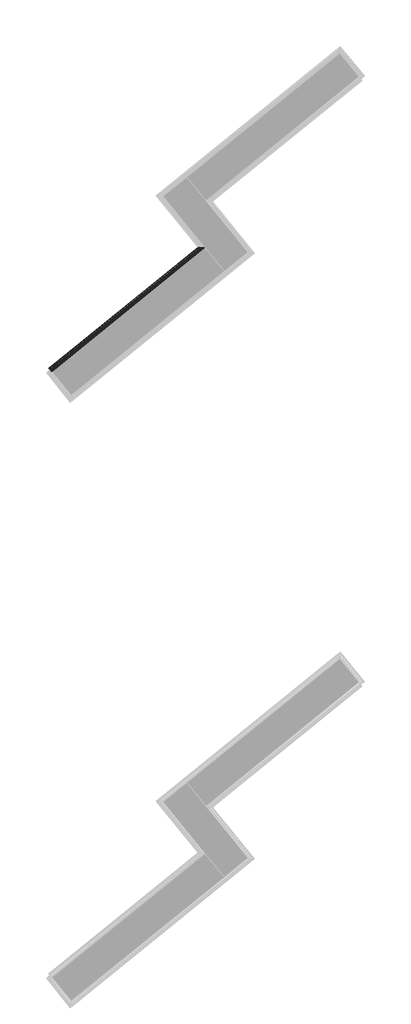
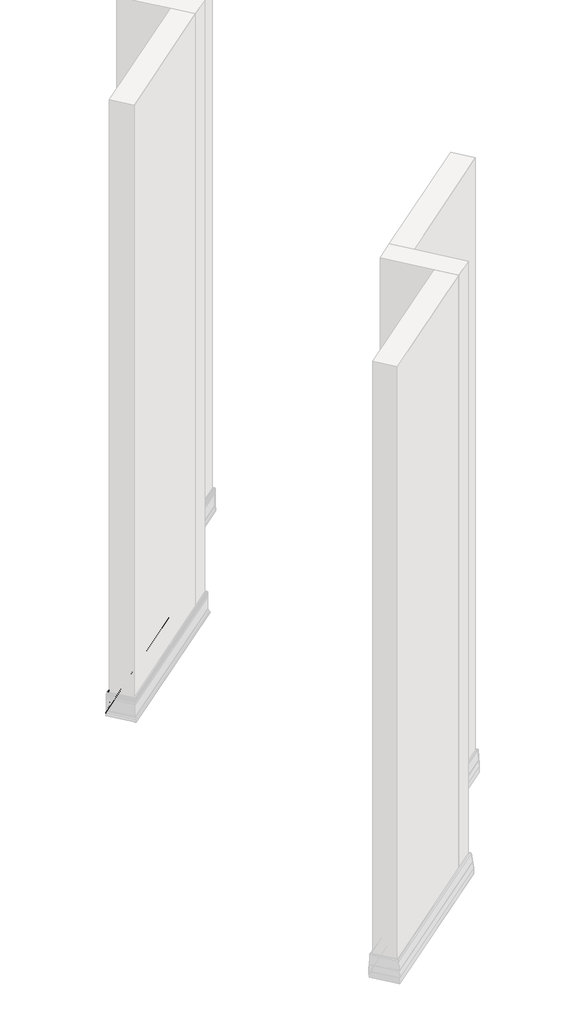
# One storey, part 18 of 21: 1 proxy.
"""IFC4 building model written with IfcOpenShell, lengths in millimetres."""

import ifcopenshell
import ifcopenshell.guid

model = None  # the IFC model being written
_history = None  # IfcOwnerHistory: only IFC2X3 demands one
_inside = {}  # id of a spatial element -> (the spatial element, [elements in it])
_under = {}  # id of a project, library or spatial element -> (it, [spatial elements below it])
_declared = {}  # id of a project -> (the project, [libraries it declares])
_typed = {}  # id of a type object -> (the type object, [elements of that type])
_made_of = {}  # id of a material, layer set ... -> (it, [elements and type objects made of it])


def new_model(schema):
    """Start an empty IFC model of exactly this schema.

    Asked for "IFC4X3", IfcOpenShell would pick the latest addendum, in which some entities
    have other attributes; the version numbers below select the first issue.
    IFC2X3 requires an IfcOwnerHistory on every rooted entity: one is made here for all.
    """
    global model, _history
    if schema == "IFC4X3":
        model = ifcopenshell.file(schema_version=(4, 3, 0, 0))
    else:
        model = ifcopenshell.file(schema=schema)
    _inside.clear()
    _under.clear()
    _declared.clear()
    _typed.clear()
    _made_of.clear()
    _history = None
    if model.schema == "IFC2X3":
        org = make("IfcOrganization", Name="unknown")
        user = make(
            "IfcPersonAndOrganization",
            ThePerson=make("IfcPerson", FamilyName="unknown"),
            TheOrganization=org,
        )
        app = make(
            "IfcApplication",
            ApplicationDeveloper=org,
            Version="unknown",
            ApplicationFullName="unknown",
            ApplicationIdentifier="unknown",
        )
        _history = make(
            "IfcOwnerHistory",
            OwningUser=user,
            OwningApplication=app,
            ChangeAction="ADDED",
            CreationDate=0,
        )
    return model


def make(cls, **values):
    """One entity of the class cls with the attributes given. An attribute that is None is left unset."""
    return model.create_entity(
        cls, **{name: value for name, value in values.items() if value is not None}
    )


def rooted(cls, **values):
    """An entity with a GlobalId (a new one), such as an element, a storey or a relation."""
    return make(cls, GlobalId=ifcopenshell.guid.new(), OwnerHistory=_history, **values)


def si_unit(unit_type, name, prefix=None):
    """IfcSIUnit, for example si_unit("LENGTHUNIT", "METRE", prefix="MILLI")."""
    return make("IfcSIUnit", UnitType=unit_type, Prefix=prefix, Name=name)


def assignment(units):
    """IfcUnitAssignment: the units of a project."""
    return None if units is None else make("IfcUnitAssignment", Units=units)


def point(xyz):
    """IfcCartesianPoint."""
    return None if xyz is None else make("IfcCartesianPoint", Coordinates=xyz)


def direction(xyz):
    """IfcDirection."""
    return None if xyz is None else make("IfcDirection", DirectionRatios=xyz)


def frame(location, z_axis=None, x_axis=None):
    """IfcAxis2Placement3D, a coordinate frame: its origin and axes. An axis left out is left unset."""
    return make(
        "IfcAxis2Placement3D",
        Location=point(location),
        Axis=direction(z_axis),
        RefDirection=direction(x_axis),
    )


def origin():
    """The frame at (0, 0, 0) with its axes left unset."""
    return frame((0.0, 0.0, 0.0))


def place(relative_to, where):
    """IfcLocalPlacement: puts the frame where relative to a parent placement (None: the world)."""
    return make(
        "IfcLocalPlacement", PlacementRelTo=relative_to, RelativePlacement=where
    )


def context(
    kind, dimensions, precision=None, world=None, true_north=None, identifier=None
):
    """IfcGeometricRepresentationContext, for example the 3D "Model" context."""
    return make(
        "IfcGeometricRepresentationContext",
        ContextIdentifier=identifier,
        ContextType=kind,
        CoordinateSpaceDimension=dimensions,
        Precision=precision,
        WorldCoordinateSystem=world,
        TrueNorth=true_north,
    )


def project(units=None, contexts=None):
    """IfcProject with its units and contexts."""
    return rooted(
        "IfcProject",
        Name="project",
        RepresentationContexts=contexts,
        UnitsInContext=assignment(units),
    )


def spatial(cls, under=None, at=None, **own):
    """A site, building, storey or space (cls), placed at a placement, below another one or the project."""
    s = rooted(cls, ObjectPlacement=at, **own)
    if under is not None:
        _under.setdefault(under.id(), (under, []))[1].append(s)
    return s


def polyline(points):
    """IfcPolyline through the points."""
    return make("IfcPolyline", Points=[point(p) for p in points])


def circle_curve(where, radius):
    """IfcCircle in the frame where."""
    return make("IfcCircle", Position=where, Radius=radius)


def ellipse_curve(where, semi_axis1, semi_axis2):
    """IfcEllipse in the frame where."""
    return make(
        "IfcEllipse", Position=where, SemiAxis1=semi_axis1, SemiAxis2=semi_axis2
    )


def shape(context_of_items, identifier, shape_type, items):
    """IfcShapeRepresentation: the items that make up one representation, for example the "Body"."""
    return make(
        "IfcShapeRepresentation",
        ContextOfItems=context_of_items,
        RepresentationIdentifier=identifier,
        RepresentationType=shape_type,
        Items=items,
    )


def made_of(thing, what):
    """Note that an element or type object is made of a material, layer set ...; save() writes the relation."""
    if what is not None:
        _made_of.setdefault(what.id(), (what, []))[1].append(thing)
    return thing


def element(
    cls,
    number,
    at=None,
    inside=None,
    cuts=None,
    type_object=None,
    material=None,
    context=None,
    identifier="Body",
    shape_type=None,
    held_by="IfcProductDefinitionShape",
    body=None,
    shapes=None,
    **own,
):
    """One element of the class cls, such as IfcWall. Its Tag is "e" and its number.

    at: its placement. inside: the storey or other place that contains it. cuts: it is an
    opening in that element (IfcRelVoidsElement). A single representation is given by context,
    identifier, shape_type and body (its items); several are given by shapes. held_by: the class
    of the entity that holds the representations. save() writes the other relations.
    """
    e = rooted(cls, Tag="e%d" % number, ObjectPlacement=at, **own)
    if body is not None:
        shapes = [shape(context, identifier, shape_type, body)]
    if shapes is not None:
        e.Representation = make(held_by, Representations=shapes)
    if inside is not None:
        _inside.setdefault(inside.id(), (inside, []))[1].append(e)
    if cuts is not None:
        rooted(
            "IfcRelVoidsElement", RelatingBuildingElement=cuts, RelatedOpeningElement=e
        )
    if type_object is not None:
        _typed.setdefault(type_object.id(), (type_object, []))[1].append(e)
    return made_of(e, material)


def aggregate(whole, parts):
    """IfcRelAggregates: a whole, such as a stair, and the parts it consists of."""
    return rooted("IfcRelAggregates", RelatingObject=whole, RelatedObjects=parts)


def save(model, path):
    """Write the relations noted so far, then the file.

    IfcRelAggregates (storeys below a building ...), IfcRelContainedInSpatialStructure (elements
    in a storey), IfcRelDefinesByType, IfcRelAssociatesMaterial and IfcRelDeclares: one each for
    every whole, place, type object, material and project.
    """
    for whole, parts in _under.values():
        aggregate(whole, parts)
    for where, things in _inside.values():
        rooted(
            "IfcRelContainedInSpatialStructure",
            RelatedElements=things,
            RelatingStructure=where,
        )
    for kind, things in _typed.values():
        rooted("IfcRelDefinesByType", RelatedObjects=things, RelatingType=kind)
    for what, things in _made_of.values():
        rooted("IfcRelAssociatesMaterial", RelatedObjects=things, RelatingMaterial=what)
    for by, libraries in _declared.values():
        rooted("IfcRelDeclares", RelatingContext=by, RelatedDefinitions=libraries)
    model.write(path)


def plane_surface(at):
    """IfcPlane: the flat surface through the origin of the frame at, square to its z axis."""
    return make("IfcPlane", Position=at)


def cylinder_surface(at, radius):
    """IfcCylindricalSurface: all points at the distance radius from the z axis of the frame at."""
    return make("IfcCylindricalSurface", Position=at, Radius=radius)


def revolved_surface(curve, axis_point, axis_direction):
    """IfcSurfaceOfRevolution: the curve turned about the line through axis_point along axis_direction."""
    return make(
        "IfcSurfaceOfRevolution",
        SweptCurve=make("IfcArbitraryOpenProfileDef", ProfileType="CURVE", Curve=curve),
        AxisPosition=make("IfcAxis1Placement", Location=point(axis_point), Axis=direction(axis_direction)),
    )


def advanced_brep(points, edges, surfaces, faces):
    """IfcAdvancedBrep: a solid bounded by faces that lie on surfaces and meet in shared edges.

    An edge is (start, end): straight between two places in points (the first is 0);
    or (start, end, curve); or (start, end, curve, False) where it runs against its curve.
    A face is (place in surfaces, loops), or (place, loops, False) where it looks against
    its surface's normal. A loop lists edges by number (the first is 1), with a minus sign
    where the edge is run from its end to its start. The first loop is the outer one.
    """
    corners = [point(p) for p in points]
    vertices = [make("IfcVertexPoint", VertexGeometry=c) for c in corners]
    made = []
    for start, end, *more in edges:
        made.append(
            make(
                "IfcEdgeCurve",
                EdgeStart=vertices[start],
                EdgeEnd=vertices[end],
                EdgeGeometry=more[0] if more else make("IfcPolyline", Points=[corners[start], corners[end]]),
                SameSense=more[1] if len(more) > 1 else True,
            )
        )
    hull = []
    for where, loops, *sense in faces:
        bounds = []
        for j, loop in enumerate(loops):
            ring = [make("IfcOrientedEdge", EdgeElement=made[abs(k) - 1], Orientation=k > 0) for k in loop]
            bounds.append(
                make(
                    "IfcFaceOuterBound" if j == 0 else "IfcFaceBound",
                    Bound=make("IfcEdgeLoop", EdgeList=ring),
                    Orientation=True,
                )
            )
        hull.append(make("IfcAdvancedFace", Bounds=bounds, FaceSurface=surfaces[where], SameSense=sense[0] if sense else True))
    return make("IfcAdvancedBrep", Outer=make("IfcClosedShell", CfsFaces=hull))


model = new_model("IFC4")

# Units and contexts
model_context = context("Model", 3, world=origin())
ifc_project = project(units=[si_unit("LENGTHUNIT", "METRE", prefix="MILLI")], contexts=[model_context])

# Site, building, storey
site = spatial("IfcSite", under=ifc_project)
building = spatial("IfcBuilding", under=site)
storey = spatial("IfcBuildingStorey", under=building, Name="Izofleks 2D View", Elevation=0.0)

# Proxy
placement = place(None, origin())
element("IfcBuildingElementProxy", 1, Name="Wall Sweeps", at=placement, inside=storey, context=model_context, shape_type="AdvancedBrep", body=[
    advanced_brep(
    [(10074.878121, -3328.6915158, 24.6576156), (10074.4051717, -3328.6418069, 19.1754831), (10070.8983314, -3328.2732231, 11.523042), (10066.7338242, -3327.8355157, 5.7382041), (10067.9678684, -3327.965219, 4.2584585), (10069.4929066, -3328.125507, 4.2584585), (10069.4929066, -3328.125507, 0.4656585), (10067.6504356, -3327.9318555, 0.4656585), (10067.6504356, -3327.9318555, 2.9584585), (10065.2532297, -3327.679899, 2.9584585), (10063.6529222, -3327.5116999, 4.8872371), (10068.9939287, -3328.0730623, 12.1684838), (10072.3269617, -3328.4233782, 19.4344099), (10072.7699733, -3328.4699406, 24.6000924), (10072.7699733, -3328.4699406, 78.3276584), (10072.8543611, -3328.4788101, 87.1886584), (10072.7572948, -3328.468608, 93.606275), (10073.1702682, -3328.5120133, 96.8753527), (10073.5724134, -3328.5542804, 98.199675), (10074.4433715, -3328.6458218, 100.1178709), (10075.9758582, -3328.8068927, 102.4589271), (10078.1989303, -3329.0405469, 104.2814568), (10080.6602487, -3329.2992419, 104.9964584), (10083.1215655, -3329.5579368, 104.9584585), (10083.1215655, -3329.5579368, 102.9584585), (10085.9344982, -3329.8535879, 102.9584585), (10085.9344982, -3329.8535879, 101.4584585), (10081.011866, -3329.3361984, 101.4584585), (10081.011866, -3329.3361984, 103.51129), (10079.5112924, -3329.1784818, 103.1069743), (10077.8018889, -3328.9988162, 101.7076691), (10076.4143069, -3328.8529755, 99.5828469), (10075.8355479, -3328.7921454, 98.368044), (10074.8618063, -3328.6898011, 93.4495757), (10074.964059, -3328.7005483, 87.2257869), (10074.964059, -3328.7005483, 78.3223694), (10074.8921667, -3328.6929921, 59.6555585), (10078.9129334, -3329.1155917, 59.6555585), (10079.916963, -3329.2211195, 59.2434073), (10082.6044981, -3329.5035908, 48.9497419), (10081.9085593, -3329.4304447, 48.3626585), (10080.6932709, -3329.3027127, 48.3626585), (10079.7376234, -3329.2022701, 47.8868905), (10084.0134863, -3329.6516814, 47.8868905), (10084.0134863, -3329.6516814, 53.99999), (10085.8418785, -3329.8438532, 54.99999), (10085.8418785, -3329.8438532, 0.0), (10084.0134863, -3329.6516814, 0.0), (10084.0134863, -3329.6516814, 16.99999), (10076.9815625, -3328.9125964, 16.99999), (10076.9815625, -3328.9125964, 18.3), (10079.291599, -3329.1553911, 18.3), (10076.5432753, -3328.8665306, 27.1399945), (10077.2285276, -3328.9385535, 27.7479135), (10078.5919451, -3329.0818545, 27.7479135), (10078.3222804, -3329.0535116, 28.7655485), (10074.878121, -3328.6915158, 28.7655485), (9575.7912935, -3732.8440599, 24.6576156), (9575.7912935, -3732.8440599, 28.7655485), (9577.3323753, -3734.7471375, 28.7655485), (9577.4530362, -3734.8961413, 27.7479135), (9576.842978, -3734.1427821, 27.7479135), (9576.5363632, -3733.7641444, 27.1399945), (9577.7660949, -3735.2827366, 18.3), (9576.7324739, -3734.006321, 18.3), (9576.7324739, -3734.006321, 16.99999), (9579.8788934, -3737.8918254, 16.99999), (9579.8788934, -3737.8918254, 0.0), (9580.6970036, -3738.9021074, 0.0), (9580.6970036, -3738.9021074, 54.99999), (9579.8788934, -3737.8918254, 53.99999), (9579.8788934, -3737.8918254, 47.8868905), (9577.9656676, -3735.5291883, 47.8868905), (9578.39327, -3736.0572333, 48.3626585), (9578.9370482, -3736.7287435, 48.3626585), (9579.2484446, -3737.1132859, 48.9497419), (9578.0459127, -3735.6282827, 59.2434073), (9577.5966618, -3735.0735041, 59.6555585), (9575.7975782, -3732.8518209, 59.6555585), (9575.8297463, -3732.8915451, 78.3223694), (9575.8297463, -3732.8915451, 87.2257869), (9575.7839935, -3732.8350452, 93.4495757), (9576.2196921, -3733.3730882, 98.368044), (9576.4786566, -3733.6928827, 99.5828469), (9577.0995273, -3734.4595941, 101.7076691), (9577.8643962, -3735.4041286, 103.1069743), (9578.5358247, -3736.2332737, 103.51129), (9578.5358247, -3736.2332737, 101.4584585), (9580.7384461, -3738.9532846, 101.4584585), (9580.7384461, -3738.9532846, 102.9584585), (9579.4798053, -3737.3989926, 102.9584585), (9579.4798053, -3737.3989926, 104.9584585), (9578.3784943, -3736.0389868, 104.9964584), (9577.2771826, -3734.6789801, 104.2814568), (9576.2824737, -3733.450617, 102.4589271), (9575.5967658, -3732.6038382, 100.1178709), (9575.2070574, -3732.1225884, 98.199675), (9575.0271184, -3731.9003822, 96.8753527), (9574.8423343, -3731.6721929, 93.606275), (9574.8857664, -3731.7258271, 87.1886584), (9574.8480073, -3731.6791985, 78.3276584), (9574.8480073, -3731.6791985, 24.6000924), (9574.6497827, -3731.4344114, 19.4344099), (9573.1584241, -3729.592737, 12.1684838), (9570.7686021, -3726.6415526, 4.8872371), (9571.4846563, -3727.5258058, 2.9584585), (9572.557281, -3728.8503871, 2.9584585), (9572.557281, -3728.8503871, 0.4656585), (9573.3816907, -3729.8684483, 0.4656585), (9573.3816907, -3729.8684483, 4.2584585), (9572.6993156, -3729.0257852, 4.2584585), (9572.1471451, -3728.3439115, 5.7382041), (9574.0105451, -3730.6450187, 11.523042), (9575.5796733, -3732.5827308, 19.1754831)],
    [
        (0, 1, ellipse_curve(frame((10036.0706401, -3324.6126852, 23.5987093), z_axis=(0.10452846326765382, 0.9945218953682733, 0.0), x_axis=(0.9945218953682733, -0.10452846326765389, 0.0)), 39.0499679, 27.6124971)),
        (1, 2, ellipse_curve(frame((10031.1260276, -3324.0929855, 24.9692502), z_axis=(0.10452846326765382, 0.9945218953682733, 0.0), x_axis=(0.9945218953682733, -0.10452846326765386, 0.0)), 44.2821811, 31.3122306)),
        (2, 3, ellipse_curve(frame((9919.7398327, -3312.3858247, 62.8834263), z_axis=(0.10452846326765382, 0.9945218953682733, 0.0), x_axis=(0.9945218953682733, -0.10452846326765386, 0.0)), 168.4549771, 119.1156566)),
        (3, 4, ellipse_curve(frame((10067.9678684, -3327.965219, 5.2584585), z_axis=(-0.10452846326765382, -0.9945218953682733, 0.0), x_axis=(-0.9945218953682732, 0.10452846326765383, 0.0)), 1.4142136, 1.0)),
        (4, 5),
        (5, 6),
        (6, 7),
        (7, 8),
        (8, 9),
        (9, 10, ellipse_curve(frame((10065.2532297, -3327.679899, 4.2584585), z_axis=(0.10452846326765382, 0.9945218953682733, 0.0), x_axis=(0.9945218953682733, -0.10452846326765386, 0.0)), 1.8384776, 1.3)),
        (10, 11, ellipse_curve(frame((9919.7398327, -3312.3858247, 62.8834263), z_axis=(-0.10452846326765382, -0.9945218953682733, 0.0), x_axis=(-0.9945218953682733, 0.10452846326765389, 0.0)), 166.3336568, 117.6156566)),
        (11, 12, ellipse_curve(frame((10031.1260276, -3324.0929855, 24.9692502), z_axis=(-0.10452846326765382, -0.9945218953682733, 0.0), x_axis=(-0.9945218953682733, 0.10452846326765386, 0.0)), 42.1608608, 29.8122306)),
        (12, 13, ellipse_curve(frame((10036.0706401, -3324.6126852, 23.5987093), z_axis=(-0.10452846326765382, -0.9945218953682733, 0.0), x_axis=(-0.9945218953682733, 0.10452846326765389, 0.0)), 36.9286476, 26.1124971)),
        (13, 14),
        (14, 15),
        (15, 16, ellipse_curve(frame((10190.0158212, -3340.7929758, 91.2936584), z_axis=(0.10452846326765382, 0.9945218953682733, 0.0), x_axis=(0.9945218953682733, -0.10452846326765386, 0.0)), 117.9497709, 83.4030829)),
        (16, 17, ellipse_curve(frame((10098.3916059, -3331.1628827, 93.6169585), z_axis=(0.10452846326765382, 0.9945218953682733, 0.0), x_axis=(0.9945218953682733, -0.10452846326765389, 0.0)), 25.7755165, 18.2260425)),
        (17, 18),
        (18, 19, ellipse_curve(frame((10097.1818267, -3331.0357298, 93.8395846), z_axis=(0.10452846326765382, 0.9945218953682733, 0.0), x_axis=(0.9945218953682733, -0.10452846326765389, 0.0)), 24.5271842, 17.3433382)),
        (19, 20, ellipse_curve(frame((10098.3916059, -3331.1628827, 93.6169585), z_axis=(0.10452846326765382, 0.9945218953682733, 0.0), x_axis=(0.9945218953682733, -0.10452846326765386, 0.0)), 25.7755165, 18.2260425)),
        (20, 21, ellipse_curve(frame((10083.756576, -3329.6246791, 99.2578162), z_axis=(0.10452846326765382, 0.9945218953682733, 0.0), x_axis=(0.9945218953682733, -0.10452846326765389, 0.0)), 9.0389471, 6.3915008)),
        (21, 22, ellipse_curve(frame((10081.1294256, -3329.3485544, 101.680883), z_axis=(0.10452846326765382, 0.9945218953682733, 0.0), x_axis=(0.9945218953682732, -0.10452846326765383, 0.0)), 4.7126043, 3.3323144)),
        (22, 23, ellipse_curve(frame((10081.6226511, -3329.4003945, 96.1938046), z_axis=(0.10452846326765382, 0.9945218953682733, 0.0), x_axis=(0.9945218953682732, -0.10452846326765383, 0.0)), 12.4863877, 8.8292094)),
        (23, 24),
        (24, 25),
        (25, 26),
        (26, 27),
        (27, 28),
        (28, 29, ellipse_curve(frame((10081.1294256, -3329.3485544, 101.680883), z_axis=(-0.10452846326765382, -0.9945218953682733, 0.0), x_axis=(-0.9945218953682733, 0.10452846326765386, 0.0)), 2.5912839, 1.8323144)),
        (29, 30, ellipse_curve(frame((10083.756576, -3329.6246791, 99.2578162), z_axis=(-0.10452846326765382, -0.9945218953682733, 0.0), x_axis=(-0.9945218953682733, 0.10452846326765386, 0.0)), 6.9176268, 4.8915008)),
        (30, 31, ellipse_curve(frame((10098.4630028, -3331.1703868, 93.5954863), z_axis=(-0.10452846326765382, -0.9945218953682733, 0.0), x_axis=(-0.9945218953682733, 0.10452846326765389, 0.0)), 23.7320956, 16.7811257)),
        (31, 32, ellipse_curve(frame((10116.2123777, -3333.0359213, 89.3206815), z_axis=(-0.10452846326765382, -0.9945218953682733, 0.0), x_axis=(-0.9945218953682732, 0.10452846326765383, 0.0)), 42.5676821, 30.0998967)),
        (32, 33, ellipse_curve(frame((10098.4630028, -3331.1703868, 93.5954863), z_axis=(-0.10452846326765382, -0.9945218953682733, 0.0), x_axis=(-0.9945218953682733, 0.10452846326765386, 0.0)), 23.7320956, 16.7811257)),
        (33, 34, ellipse_curve(frame((10190.0158212, -3340.7929758, 91.2936585), z_axis=(-0.10452846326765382, -0.9945218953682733, 0.0), x_axis=(-0.9945218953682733, 0.10452846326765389, 0.0)), 115.8284506, 81.9030829)),
        (34, 35),
        (35, 36),
        (36, 37),
        (37, 38, ellipse_curve(frame((10079.1672604, -3329.1423226, 59.1444576), z_axis=(0.10452846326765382, 0.9945218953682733, 0.0), x_axis=(0.9945218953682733, -0.10452846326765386, 0.0)), 0.7667105, 0.5421462)),
        (38, 39),
        (39, 40, ellipse_curve(frame((10081.9120045, -3329.4308068, 48.8626585), z_axis=(0.10452846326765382, 0.9945218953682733, 0.0), x_axis=(0.9945218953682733, -0.10452846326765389, 0.0)), 0.7071153, 0.500006)),
        (40, 41),
        (41, 42),
        (42, 43),
        (43, 44),
        (44, 45, ellipse_curve(frame((10085.4914005, -3329.8070165, 53.9789482), z_axis=(0.10452846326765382, 0.9945218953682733, 0.0), x_axis=(0.9945218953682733, -0.10452846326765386, 0.0)), 1.4863528, 1.0510102)),
        (45, 46),
        (46, 47),
        (47, 48),
        (48, 49),
        (49, 50, ellipse_curve(frame((10077.1518186, -3328.9304911, 17.649995), z_axis=(0.10452846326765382, 0.9945218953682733, 0.0), x_axis=(0.9945218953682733, -0.10452846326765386, 0.0)), 0.935051, 0.6611809)),
        (50, 51),
        (51, 52),
        (52, 53, ellipse_curve(frame((10077.2299341, -3328.9387013, 27.2479135), z_axis=(0.10452846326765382, 0.9945218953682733, 0.0), x_axis=(0.9945218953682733, -0.10452846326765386, 0.0)), 0.7071082, 0.500001)),
        (53, 54),
        (54, 55),
        (55, 56),
        (56, 0),
        (57, 58),
        (58, 59),
        (59, 60),
        (60, 61),
        (61, 62, circle_curve(frame((9576.8436073, -3734.1435592, 27.2479135), z_axis=(-0.7771459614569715, -0.6293203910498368, 0.0), x_axis=(-0.6146079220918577, 0.7589775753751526, -0.21496544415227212)), 0.500001)),
        (62, 63),
        (63, 64),
        (64, 65, circle_curve(frame((9576.8086547, -3734.1003963, 17.649995), z_axis=(-0.7771459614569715, -0.629320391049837, 0.0), x_axis=(-0.11521920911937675, 0.14228387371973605, -0.9830970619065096)), 0.6611809)),
        (65, 66),
        (66, 67),
        (67, 68),
        (68, 69),
        (69, 70, circle_curve(frame((9580.5401829, -3738.70845, 53.9789482), z_axis=(-0.7771459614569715, -0.629320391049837, 0.0), x_axis=(-0.6291942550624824, 0.7769901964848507, 0.02002058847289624)), 1.0510102)),
        (70, 71),
        (71, 72),
        (72, 73),
        (73, 74),
        (74, 75, circle_curve(frame((9578.9385898, -3736.7306471, 48.8626585), z_axis=(-0.7771459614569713, -0.6293203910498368, 0.0), x_axis=(0.6197021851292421, -0.7652684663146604, 0.17416479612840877)), 0.500006)),
        (75, 76),
        (76, 77, circle_curve(frame((9577.7104599, -3735.214033, 59.1444576), z_axis=(-0.7771459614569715, -0.6293203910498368, 0.0), x_axis=(-0.6293203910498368, 0.7771459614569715, 0.0)), 0.5421462)),
        (77, 78),
        (78, 79),
        (79, 80),
        (80, 81, circle_curve(frame((9627.3094137, -3796.46364, 91.2936585), z_axis=(0.7771459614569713, 0.6293203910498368, 0.0), x_axis=(-0.6291023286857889, 0.7768766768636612, 0.026322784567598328)), 81.9030829)),
        (81, 82, circle_curve(frame((9586.3442989, -3745.8759363, 93.5954863), z_axis=(0.7771459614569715, 0.6293203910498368, 0.0), x_axis=(-0.6033329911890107, 0.7450541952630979, 0.28440033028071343)), 16.7811257)),
        (82, 83, circle_curve(frame((9594.2862191, -3755.683391, 89.3206815), z_axis=(0.7771459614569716, 0.6293203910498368, 0.0), x_axis=(-0.591615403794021, 0.7305841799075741, 0.340936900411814)), 30.0998967)),
        (83, 84, circle_curve(frame((9586.3442989, -3745.8759363, 93.5954863), z_axis=(0.7771459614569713, 0.629320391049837, 0.0), x_axis=(-0.5509029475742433, 0.6803084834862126, 0.4834111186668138)), 16.7811257)),
        (84, 85, circle_curve(frame((9579.7639394, -3737.749869, 99.2578162), z_axis=(0.7771459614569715, 0.6293203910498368, 0.0), x_axis=(-0.3890724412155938, 0.4804644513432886, 0.7859876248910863)), 4.8915008)),
        (85, 86, circle_curve(frame((9578.5884265, -3736.2982315, 101.680883), z_axis=(0.7771459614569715, 0.629320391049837, 0.0), x_axis=(-0.02870785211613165, 0.03545124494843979, 0.9989589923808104)), 1.8323144)),
        (86, 87),
        (87, 88),
        (88, 89),
        (89, 90),
        (90, 91),
        (91, 92, circle_curve(frame((9578.8091192, -3736.5707643, 96.1938046), z_axis=(-0.7771459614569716, -0.6293203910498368, 0.0), x_axis=(-0.04877276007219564, 0.06022934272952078, 0.9969922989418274)), 8.8292094)),
        (92, 93, circle_curve(frame((9578.5884265, -3736.2982315, 101.680883), z_axis=(-0.7771459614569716, -0.6293203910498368, 0.0), x_axis=(-0.39349345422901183, 0.485923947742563, 0.7804106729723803)), 3.3323144)),
        (93, 94, circle_curve(frame((9579.7639394, -3737.749869, 99.2578162), z_axis=(-0.7771459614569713, -0.6293203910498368, 0.0), x_axis=(-0.5447023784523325, 0.672651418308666, 0.5008386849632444)), 6.3915008)),
        (94, 95, circle_curve(frame((9586.3123525, -3745.8364858, 93.6169585), z_axis=(-0.7771459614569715, -0.6293203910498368, 0.0), x_axis=(-0.5879272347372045, 0.7260296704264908, 0.35668261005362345)), 18.2260425)),
        (95, 96, circle_curve(frame((9585.7710394, -3745.1680197, 93.8395846), z_axis=(-0.7771459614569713, -0.6293203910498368, 0.0), x_axis=(-0.6183238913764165, 0.763566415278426, 0.18612333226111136)), 17.3433382)),
        (96, 97),
        (97, 98, circle_curve(frame((9586.3123525, -3745.8364858, 93.6169585), z_axis=(-0.7771459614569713, -0.6293203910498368, 0.0), x_axis=(-0.6293202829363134, 0.7771458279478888, -0.0005861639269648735)), 18.2260425)),
        (98, 99, circle_curve(frame((9627.3094137, -3796.46364, 91.2936584), z_axis=(-0.7771459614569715, -0.629320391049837, 0.0), x_axis=(-0.6285576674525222, 0.7762040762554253, -0.04921880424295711)), 83.4030829)),
        (99, 100),
        (100, 101),
        (101, 102, circle_curve(frame((9558.4269684, -3711.4009042, 23.5987093), z_axis=(0.7771459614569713, 0.6293203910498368, 0.0), x_axis=(0.6212662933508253, -0.7671999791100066, -0.15947534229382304)), 26.1124971)),
        (102, 103, circle_curve(frame((9556.214512, -3708.6687481, 24.9692502), z_axis=(0.7771459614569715, 0.6293203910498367, 0.0), x_axis=(0.5683543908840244, -0.7018592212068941, -0.42937969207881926)), 29.8122306)),
        (103, 104, circle_curve(frame((9506.3749949, -3647.1220702, 62.8834263), z_axis=(0.7771459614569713, 0.6293203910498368, 0.0), x_axis=(0.547491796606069, -0.6760960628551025, -0.49309922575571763)), 117.6156566)),
        (104, 105, circle_curve(frame((9571.4846563, -3727.5258058, 4.2584585), z_axis=(-0.7771459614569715, -0.6293203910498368, 0.0), x_axis=(1.4969508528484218e-11, -1.8485803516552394e-11, -1.0)), 1.3)),
        (105, 106),
        (106, 107),
        (107, 108),
        (108, 109),
        (109, 110),
        (110, 111, circle_curve(frame((9572.6993156, -3729.0257852, 5.2584585), z_axis=(0.7771459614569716, 0.6293203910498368, 0.0), x_axis=(-0.5521704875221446, 0.6818737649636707, 0.47974568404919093)), 1.0)),
        (111, 112, circle_curve(frame((9506.3749949, -3647.1220702, 62.8834263), z_axis=(-0.7771459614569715, -0.629320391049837, 0.0), x_axis=(0.5678107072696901, -0.7011878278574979, -0.4311921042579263)), 119.1156566)),
        (112, 113, circle_curve(frame((9556.214512, -3708.6687481, 24.9692502), z_axis=(-0.7771459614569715, -0.6293203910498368, 0.0), x_axis=(0.6183794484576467, -0.7636350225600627, -0.18565669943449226)), 31.3122306)),
        (113, 57, circle_curve(frame((9558.4269684, -3711.4009042, 23.5987093), z_axis=(-0.7771459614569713, -0.6293203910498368, 0.0), x_axis=(0.6288574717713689, -0.7765743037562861, 0.0383488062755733)), 27.6124971)),
        (0, 57),
        (113, 1),
        (112, 2),
        (111, 3),
        (110, 4),
        (109, 5),
        (108, 6),
        (107, 7),
        (106, 8),
        (105, 9),
        (104, 10),
        (103, 11),
        (102, 12),
        (101, 13),
        (100, 14),
        (99, 15),
        (98, 16),
        (97, 17),
        (96, 18),
        (95, 19),
        (94, 20),
        (93, 21),
        (92, 22),
        (91, 23),
        (90, 24),
        (89, 25),
        (88, 26),
        (87, 27),
        (86, 28),
        (85, 29),
        (84, 30),
        (83, 31),
        (82, 32),
        (81, 33),
        (80, 34),
        (79, 35),
        (78, 36),
        (77, 37),
        (76, 38),
        (75, 39),
        (74, 40),
        (73, 41),
        (72, 42),
        (71, 43),
        (70, 44),
        (69, 45),
        (68, 46),
        (67, 47),
        (66, 48),
        (65, 49),
        (64, 50),
        (63, 51),
        (62, 52),
        (61, 53),
        (60, 54),
        (59, 55),
        (58, 56),
    ],
    [
        plane_surface(frame((10085.8418785, -3329.8438532, 304.8), z_axis=(0.10452846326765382, 0.9945218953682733, 0.0), x_axis=(-0.9945218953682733, 0.10452846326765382, 0.0))),
        plane_surface(frame((9580.6970036, -3738.9021074, -105.0610738), z_axis=(-0.7771459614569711, -0.6293203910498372, 0.0), x_axis=(0.6293203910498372, -0.7771459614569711, 0.0))),
        cylinder_surface(frame((10063.5718433, -3302.34265, 23.5987093), z_axis=(0.7771459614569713, 0.6293203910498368, 0.0), x_axis=(0.6288574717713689, -0.7765743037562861, 0.0383488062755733)), 27.6124971),
        cylinder_surface(frame((10061.3593869, -3299.6104939, 24.9692502), z_axis=(0.7771459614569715, 0.6293203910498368, 0.0), x_axis=(0.6183794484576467, -0.7636350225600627, -0.18565669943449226)), 31.3122306),
        cylinder_surface(frame((10011.5198699, -3238.063816, 62.8834263), z_axis=(0.7771459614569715, 0.629320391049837, 0.0), x_axis=(0.5678107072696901, -0.7011878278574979, -0.4311921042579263)), 119.1156566),
        revolved_surface(polyline([(9572.147145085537, -3728.34391148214, 5.738204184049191), (10068.19284390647, -3326.6540248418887, 5.738204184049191)]), (10077.8441906, -3319.967531, 5.2584585), (-0.7771459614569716, -0.6293203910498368, 0.0)),
        plane_surface(frame((10067.9678684, -3327.965219, 4.2584585), z_axis=(0.0, 0.0, 1.0000000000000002), x_axis=(-0.7771459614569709, -0.6293203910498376, 0.0))),
        plane_surface(frame((10069.4929066, -3328.125507, 4.2584585), z_axis=(0.6293203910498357, -0.7771459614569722, 0.0), x_axis=(-0.7771459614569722, -0.6293203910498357, 0.0))),
        plane_surface(frame((10069.4929066, -3328.125507, 0.4656585), z_axis=(0.0, 0.0, -1.0), x_axis=(-0.7771459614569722, -0.6293203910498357, 0.0))),
        plane_surface(frame((10067.6504356, -3327.9318555, 0.4656585), z_axis=(-0.6293203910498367, 0.7771459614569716, 0.0), x_axis=(-0.7771459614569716, -0.6293203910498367, 0.0))),
        plane_surface(frame((10067.6504356, -3327.9318555, 2.9584585), z_axis=(0.0, 0.0, -1.0), x_axis=(-0.7771459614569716, -0.6293203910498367, 0.0))),
        cylinder_surface(frame((10076.6295312, -3318.4675517, 4.2584585), z_axis=(0.7771459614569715, 0.6293203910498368, 0.0), x_axis=(1.4969508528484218e-11, -1.8485803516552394e-11, -1.0)), 1.3),
        revolved_surface(polyline([(9570.768602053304, -3726.64155257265, 4.887237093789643), (10075.537972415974, -3317.8873760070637, 4.887237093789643)]), (10011.5198699, -3238.063816, 62.8834263), (-0.7771459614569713, -0.6293203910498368, 0.0)),
        revolved_surface(polyline([(9573.15842412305, -3729.5927370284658, 12.168483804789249), (10071.238394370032, -3326.2555298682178, 12.168483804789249)]), (10061.3593869, -3299.6104939, 24.9692502), (-0.7771459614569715, -0.6293203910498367, 0.0)),
        revolved_surface(polyline([(9574.649782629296, -3731.4344114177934, 19.434409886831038), (10072.586676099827, -3328.213065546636, 19.434409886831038)]), (10063.5718433, -3302.34265, 23.5987093), (-0.7771459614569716, -0.629320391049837, 0.0)),
        plane_surface(frame((10072.7699733, -3328.4699406, 24.6000924), z_axis=(-0.629320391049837, 0.7771459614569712, 0.0), x_axis=(-0.7771459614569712, -0.629320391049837, 0.0))),
        plane_surface(frame((10072.7699733, -3328.4699406, 78.3276584), z_axis=(-0.6293059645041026, 0.7771281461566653, 0.006771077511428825), x_axis=(-0.7771459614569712, -0.629320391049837, 0.0))),
        cylinder_surface(frame((10132.4542886, -3387.4053858, 91.2936584), z_axis=(0.7771459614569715, 0.629320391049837, 0.0), x_axis=(-0.6285576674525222, 0.7762040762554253, -0.04921880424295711)), 83.4030829),
        cylinder_surface(frame((10091.4572275, -3336.7782316, 93.6169585), z_axis=(0.7771459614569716, 0.629320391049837, 0.0), x_axis=(-0.6293202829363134, 0.7771458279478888, -0.0005861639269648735)), 18.2260425),
        plane_surface(frame((10073.1702682, -3328.5120133, 96.8753527), z_axis=(-0.6151463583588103, 0.7596424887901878, 0.2110408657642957), x_axis=(-0.7771459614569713, -0.6293203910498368, 0.0))),
        cylinder_surface(frame((10090.9159143, -3336.1097656, 93.8395846), z_axis=(0.7771459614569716, 0.629320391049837, 0.0), x_axis=(-0.6183238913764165, 0.763566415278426, 0.18612333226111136)), 17.3433382),
        cylinder_surface(frame((10091.4572275, -3336.7782316, 93.6169585), z_axis=(0.7771459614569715, 0.6293203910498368, 0.0), x_axis=(-0.5879272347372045, 0.7260296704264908, 0.35668261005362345)), 18.2260425),
        cylinder_surface(frame((10084.9088143, -3328.6916149, 99.2578162), z_axis=(0.7771459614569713, 0.6293203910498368, 0.0), x_axis=(-0.5447023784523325, 0.672651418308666, 0.5008386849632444)), 6.3915008),
        cylinder_surface(frame((10083.7333014, -3327.2399773, 101.680883), z_axis=(0.7771459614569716, 0.6293203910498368, 0.0), x_axis=(-0.39349345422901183, 0.485923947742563, 0.7804106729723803)), 3.3323144),
        cylinder_surface(frame((10083.9539942, -3327.5125101, 96.1938046), z_axis=(0.7771459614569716, 0.6293203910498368, 0.0), x_axis=(-0.04877276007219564, 0.06022934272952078, 0.9969922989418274)), 8.8292094),
        plane_surface(frame((10083.1215655, -3329.5579368, 104.9584585), z_axis=(0.6293203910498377, -0.7771459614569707, 0.0), x_axis=(-0.7771459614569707, -0.6293203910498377, 0.0))),
        plane_surface(frame((10083.1215655, -3329.5579368, 102.9584585), z_axis=(0.0, 0.0, 1.0), x_axis=(-0.7771459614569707, -0.6293203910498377, 0.0))),
        plane_surface(frame((10085.9344982, -3329.8535879, 102.9584585), z_axis=(0.6293203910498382, -0.7771459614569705, 0.0), x_axis=(-0.7771459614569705, -0.6293203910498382, 0.0))),
        plane_surface(frame((10085.9344982, -3329.8535879, 101.4584585), z_axis=(0.0, 0.0, -1.0000000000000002), x_axis=(-0.7771459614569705, -0.6293203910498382, 0.0))),
        plane_surface(frame((10081.011866, -3329.3361984, 101.4584585), z_axis=(-0.6293203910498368, 0.7771459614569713, 0.0), x_axis=(-0.7771459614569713, -0.6293203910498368, 0.0))),
        revolved_surface(polyline([(9578.535824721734, -3736.2332737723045, 103.51128994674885), (10082.500799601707, -3328.130483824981, 103.51128994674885)]), (10083.7333015, -3327.2399774, 101.680883), (-0.7771459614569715, -0.629320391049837, 0.0)),
        revolved_surface(polyline([(9577.860791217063, -3735.3996768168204, 103.10247529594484), (10085.654837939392, -3324.196165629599, 103.10247529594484)]), (10084.9088143, -3328.6916149, 99.2578162), (-0.7771459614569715, -0.6293203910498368, 0.0)),
        revolved_surface(polyline([(9577.099527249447, -3734.459594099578, 101.70766904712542), (10102.259615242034, -3309.1933399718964, 101.70766904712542)]), (10091.4891738, -3336.8176821, 93.5954863), (-0.7771459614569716, -0.6293203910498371, 0.0)),
        revolved_surface(polyline([(9576.478656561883, -3733.692882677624, 99.58284698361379), (10121.796828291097, -3292.102934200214, 99.58284698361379)]), (10099.4310941, -3346.6251368, 89.3206815), (-0.7771459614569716, -0.6293203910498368, 0.0)),
        revolved_surface(polyline([(9576.219692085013, -3733.3730881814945, 98.36804399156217), (10101.379780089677, -3308.106834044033, 98.36804399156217)]), (10091.4891738, -3336.8176821, 93.5954863), (-0.7771459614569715, -0.6293203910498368, 0.0)),
        revolved_surface(polyline([(9575.783993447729, -3732.8350451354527, 93.44957570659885), (10202.141051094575, -3225.621100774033, 93.44957570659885)]), (10132.4542886, -3387.4053858, 91.2936585), (-0.7771459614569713, -0.6293203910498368, 0.0)),
        plane_surface(frame((10074.964059, -3328.7005483, 87.2257869), z_axis=(0.6293203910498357, -0.7771459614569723, 0.0), x_axis=(-0.7771459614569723, -0.6293203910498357, 0.0))),
        plane_surface(frame((10074.964059, -3328.7005483, 78.3223694), z_axis=(0.6293180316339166, -0.7771430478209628, -0.002738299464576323), x_axis=(-0.7771459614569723, -0.6293203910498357, 0.0))),
        plane_surface(frame((10074.8921667, -3328.6929921, 59.6555585), z_axis=(0.0, 0.0, 1.0), x_axis=(-0.7771459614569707, -0.6293203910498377, 0.0))),
        cylinder_surface(frame((10082.8553348, -3326.1557788, 59.1444576), z_axis=(0.7771459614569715, 0.6293203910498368, 0.0), x_axis=(-0.6293203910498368, 0.7771459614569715, 0.0)), 0.5421462),
        plane_surface(frame((10079.916963, -3329.2211195, 59.2434073), z_axis=(0.6187497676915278, -0.7640923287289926, 0.18251476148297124), x_axis=(-0.7771459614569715, -0.6293203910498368, 0.0))),
        cylinder_surface(frame((10084.0834647, -3327.6723929, 48.8626585), z_axis=(0.7771459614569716, 0.629320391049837, 0.0), x_axis=(0.6197021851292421, -0.7652684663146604, 0.17416479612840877)), 0.500006),
        plane_surface(frame((10081.9085593, -3329.4304447, 48.3626585), z_axis=(0.0, 0.0, -1.0000000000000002), x_axis=(-0.7771459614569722, -0.629320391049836, 0.0))),
        plane_surface(frame((10080.6932709, -3329.3027127, 48.3626585), z_axis=(0.3609633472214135, -0.44575261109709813, -0.8191520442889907), x_axis=(-0.777145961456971, -0.6293203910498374, 0.0))),
        plane_surface(frame((10079.7376234, -3329.2022701, 47.8868905), z_axis=(0.0, 0.0, 1.0), x_axis=(-0.7771459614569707, -0.6293203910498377, 0.0))),
        plane_surface(frame((10084.0134863, -3329.6516814, 47.8868905), z_axis=(-0.6293203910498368, 0.7771459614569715, 0.0), x_axis=(-0.7771459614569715, -0.6293203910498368, 0.0))),
        cylinder_surface(frame((10085.6850579, -3329.6501958, 53.9789482), z_axis=(0.7771459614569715, 0.629320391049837, 0.0), x_axis=(-0.6291942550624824, 0.7769901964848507, 0.02002058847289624)), 1.0510102),
        plane_surface(frame((10085.8418785, -3329.8438532, 54.99999), z_axis=(0.629320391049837, -0.7771459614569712, 0.0), x_axis=(-0.7771459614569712, -0.629320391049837, 0.0))),
        plane_surface(frame((10085.8418785, -3329.8438532, 0.0), z_axis=(0.0, 0.0, -1.0), x_axis=(-0.7771459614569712, -0.629320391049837, 0.0))),
        plane_surface(frame((10084.0134863, -3329.6516814, 0.0), z_axis=(-0.6293203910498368, 0.7771459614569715, 0.0), x_axis=(-0.7771459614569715, -0.6293203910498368, 0.0))),
        plane_surface(frame((10084.0134863, -3329.6516814, 16.99999), z_axis=(0.0, 0.0, -1.0000000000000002), x_axis=(-0.7771459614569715, -0.6293203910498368, 0.0))),
        cylinder_surface(frame((10081.9535296, -3325.0421421, 17.649995), z_axis=(0.7771459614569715, 0.629320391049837, 0.0), x_axis=(-0.11521920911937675, 0.14228387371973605, -0.9830970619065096)), 0.6611809),
        plane_surface(frame((10076.9815625, -3328.9125964, 18.3), z_axis=(0.0, 0.0, 1.0), x_axis=(-0.7771459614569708, -0.6293203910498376, 0.0))),
        plane_surface(frame((10079.291599, -3329.1553911, 18.3), z_axis=(-0.6144868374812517, 0.758828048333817, -0.21583771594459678), x_axis=(-0.7771459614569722, -0.629320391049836, 0.0))),
        cylinder_surface(frame((10081.9884822, -3325.085305, 27.2479135), z_axis=(0.7771459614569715, 0.6293203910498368, 0.0), x_axis=(-0.6146079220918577, 0.7589775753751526, -0.21496544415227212)), 0.500001),
        plane_surface(frame((10077.2285276, -3328.9385535, 27.7479135), z_axis=(0.0, 0.0, 1.0), x_axis=(-0.7771459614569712, -0.6293203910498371, 0.0))),
        plane_surface(frame((10078.5919451, -3329.0818545, 27.7479135), z_axis=(-0.6184393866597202, 0.763709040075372, -0.18515190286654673), x_axis=(-0.7771459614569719, -0.6293203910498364, 0.0))),
        plane_surface(frame((10078.3222804, -3329.0535116, 28.7655485), z_axis=(0.0, 0.0, -1.0000000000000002), x_axis=(-0.7771459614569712, -0.6293203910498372, 0.0))),
        plane_surface(frame((10074.878121, -3328.6915158, 28.7655485), z_axis=(0.6293203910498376, -0.7771459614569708, 0.0), x_axis=(-0.7771459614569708, -0.6293203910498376, 0.0))),
    ],
    [
        (0, [[1, 2, 3, 4, 5, 6, 7, 8, 9, 10, 11, 12, 13, 14, 15, 16, 17, 18, 19, 20, 21, 22, 23, 24, 25, 26, 27, 28, 29, 30, 31, 32, 33, 34, 35, 36, 37, 38, 39, 40, 41, 42, 43, 44, 45, 46, 47, 48, 49, 50, 51, 52, 53, 54, 55, 56, 57]]),
        (1, [[58, 59, 60, 61, 62, 63, 64, 65, 66, 67, 68, 69, 70, 71, 72, 73, 74, 75, 76, 77, 78, 79, 80, 81, 82, 83, 84, 85, 86, 87, 88, 89, 90, 91, 92, 93, 94, 95, 96, 97, 98, 99, 100, 101, 102, 103, 104, 105, 106, 107, 108, 109, 110, 111, 112, 113, 114]]),
        (2, [[-1, 115, -114, 116]]),
        (3, [[-2, -116, -113, 117]]),
        (4, [[-3, -117, -112, 118]]),
        (5, [[-4, -118, -111, 119]]),
        (6, [[-5, -119, -110, 120]]),
        (7, [[-6, -120, -109, 121]]),
        (8, [[-7, -121, -108, 122]]),
        (9, [[-8, -122, -107, 123]]),
        (10, [[-9, -123, -106, 124]]),
        (11, [[-10, -124, -105, 125]]),
        (12, [[-11, -125, -104, 126]]),
        (13, [[-12, -126, -103, 127]]),
        (14, [[-13, -127, -102, 128]]),
        (15, [[-14, -128, -101, 129]]),
        (16, [[-15, -129, -100, 130]]),
        (17, [[-16, -130, -99, 131]]),
        (18, [[-17, -131, -98, 132]]),
        (19, [[-18, -132, -97, 133]]),
        (20, [[-19, -133, -96, 134]]),
        (21, [[-20, -134, -95, 135]]),
        (22, [[-21, -135, -94, 136]]),
        (23, [[-22, -136, -93, 137]]),
        (24, [[-23, -137, -92, 138]]),
        (25, [[-24, -138, -91, 139]]),
        (26, [[-25, -139, -90, 140]]),
        (27, [[-26, -140, -89, 141]]),
        (28, [[-27, -141, -88, 142]]),
        (29, [[-28, -142, -87, 143]]),
        (30, [[-29, -143, -86, 144]]),
        (31, [[-30, -144, -85, 145]]),
        (32, [[-31, -145, -84, 146]]),
        (33, [[-32, -146, -83, 147]]),
        (34, [[-33, -147, -82, 148]]),
        (35, [[-34, -148, -81, 149]]),
        (36, [[-35, -149, -80, 150]]),
        (37, [[-36, -150, -79, 151]]),
        (38, [[-37, -151, -78, 152]]),
        (39, [[-38, -152, -77, 153]]),
        (40, [[-39, -153, -76, 154]]),
        (41, [[-40, -154, -75, 155]]),
        (42, [[-41, -155, -74, 156]]),
        (43, [[-42, -156, -73, 157]]),
        (44, [[-43, -157, -72, 158]]),
        (45, [[-44, -158, -71, 159]]),
        (46, [[-45, -159, -70, 160]]),
        (47, [[-46, -160, -69, 161]]),
        (48, [[-47, -161, -68, 162]]),
        (49, [[-48, -162, -67, 163]]),
        (50, [[-49, -163, -66, 164]]),
        (51, [[-50, -164, -65, 165]]),
        (52, [[-51, -165, -64, 166]]),
        (53, [[-52, -166, -63, 167]]),
        (54, [[-53, -167, -62, 168]]),
        (55, [[-54, -168, -61, 169]]),
        (56, [[-55, -169, -60, 170]]),
        (57, [[-56, -170, -59, 171]]),
        (58, [[-57, -171, -58, -115]]),
    ],
),
])

save(model, "model.ifc")
